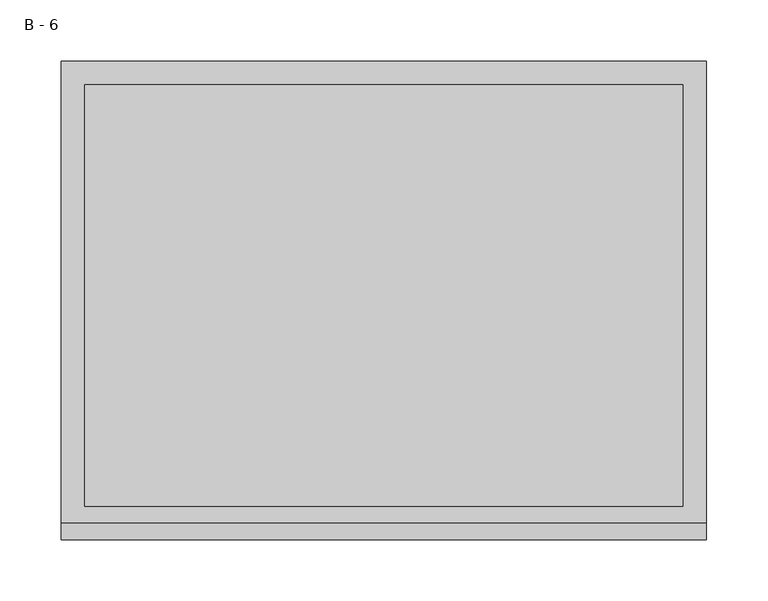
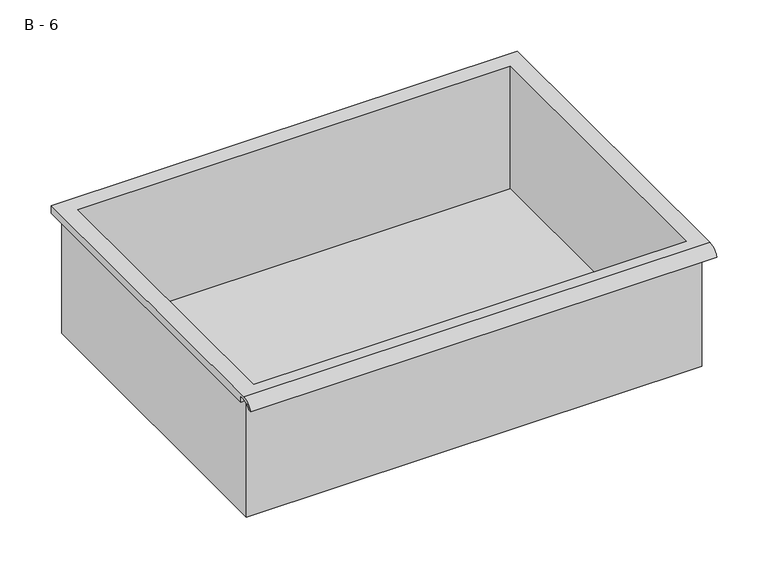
"""IFC4 building model written with IfcOpenShell, lengths in millimetres: furniture geometry, HermanMiller_CoStruc_CO207_Drawer : B - 6."""

from ifc_helpers import new_model, si_unit, frame, origin, place, context, project, spatial, polyline, circle_curve, source, transform, mapped, element, save
from ifc_brep_helpers import plane_surface, cylinder_surface, revolved_surface, advanced_brep


def b_6_0a80589c(model_context):
    return source(origin(), model_context, "Body", "AdvancedBrep", [
        advanced_brep(
        [(-257.1076517, -176.2125, 498.475), (257.2423483, -176.2125, 498.475), (257.2423483, -176.2125, 638.175), (263.5923483, -176.2125, 638.175), (263.5923483, -176.2125, 644.4821341), (-263.4576517, -176.2125, 644.4821341), (-263.4576517, -176.2125, 638.175), (-257.1076517, -176.2125, 638.175), (257.2423483, 185.7375, 498.475), (-257.1076517, 185.7375, 498.475), (-257.1076517, 185.7375, 638.175), (257.2423483, 185.7375, 638.175), (263.5923483, -181.6070544, 647.7), (263.5923483, 195.2625, 647.7), (-263.4576517, 195.2625, 647.7), (-263.4576517, -181.6070544, 647.7), (244.5423483, -168.275, 647.7), (-244.4076517, -168.275, 647.7), (-244.4076517, 176.2125, 647.7), (244.5423483, 176.2125, 647.7), (263.5923483, -195.2625, 638.175), (263.5923483, -191.8280601, 638.175), (263.5923483, -180.4714815, 644.4821341), (263.5923483, 195.2625, 638.175), (-263.4576517, 195.2625, 638.175), (-263.4576517, -180.4714815, 644.4821341), (-263.4576517, -191.8280601, 638.175), (-263.4576517, -195.2625, 638.175), (-244.4076517, -168.275, 501.5011719), (244.5423483, -168.275, 501.5011719), (244.5423483, 176.2125, 501.5011719), (-244.4076517, 176.2125, 501.5011719)],
        [
            (0, 1),
            (1, 2),
            (2, 3),
            (3, 4),
            (4, 5),
            (5, 6),
            (6, 7),
            (7, 0),
            (8, 9),
            (9, 10),
            (10, 11),
            (11, 8),
            (0, 9),
            (8, 1),
            (11, 2),
            (12, 13),
            (13, 14),
            (14, 15),
            (15, 12),
            (16, 17),
            (17, 18),
            (18, 19),
            (19, 16),
            (7, 10),
            (12, 20, circle_curve(frame((263.5923483, -181.6070544, 633.1489859), z_axis=(1.0, 0.0, 0.0), x_axis=(0.0, 1.0, 0.0)), 14.5510141)),
            (20, 21),
            (21, 22, circle_curve(frame((263.5923483, -181.6070544, 633.1489859), z_axis=(-1.0, 0.0, 0.0), x_axis=(0.0, 1.0, 0.0)), 11.3898979)),
            (22, 4),
            (3, 23),
            (23, 13),
            (14, 24),
            (24, 6),
            (5, 25),
            (25, 26, circle_curve(frame((-263.4576517, -181.6070544, 633.1489859), z_axis=(1.0, 0.0, 0.0), x_axis=(0.0, 1.0, 0.0)), 11.3898979)),
            (26, 27),
            (27, 15, circle_curve(frame((-263.4576517, -181.6070544, 633.1489859), z_axis=(-1.0, 0.0, 0.0), x_axis=(0.0, 1.0, 0.0)), 14.5510141)),
            (27, 20),
            (26, 21),
            (25, 22),
            (24, 23),
            (28, 29),
            (29, 30),
            (30, 31),
            (31, 28),
            (28, 17),
            (16, 29),
            (19, 30),
            (18, 31),
        ],
        [
            plane_surface(frame((257.2423483, -176.2125, 498.475), z_axis=(0.0, -1.0, 0.0), x_axis=(1.0, 0.0, 0.0))),
            plane_surface(frame((257.2423483, 185.7375, 498.475), z_axis=(0.0, 1.0, 0.0), x_axis=(-1.0, 0.0, 0.0))),
            plane_surface(frame((-257.1076517, -176.2125, 498.475), z_axis=(0.0, 0.0, -1.0), x_axis=(0.0, 1.0, 0.0))),
            plane_surface(frame((257.2423483, -176.2125, 498.475), z_axis=(1.0, 0.0, 0.0), x_axis=(0.0, 1.0, 0.0))),
            plane_surface(frame((257.2423483, -176.2125, 647.7), z_axis=(0.0, 0.0, 1.0), x_axis=(0.0, 1.0, 0.0))),
            plane_surface(frame((-257.1076517, -176.2125, 647.7), z_axis=(-1.0, 0.0, 0.0), x_axis=(0.0, 1.0, 0.0))),
            plane_surface(frame((263.5923483, 195.2625, 647.7), z_axis=(1.0, 0.0, 0.0), x_axis=(0.0, -1.0, 0.0))),
            plane_surface(frame((-263.4576517, 195.2625, 647.7), z_axis=(-1.0, 0.0, 0.0), x_axis=(0.0, 1.0, 0.0))),
            cylinder_surface(frame((-263.4576517, -181.6070544, 633.1489859), z_axis=(1.0, 0.0, 0.0), x_axis=(0.0, 1.0, 0.0)), 14.5510141),
            plane_surface(frame((263.5923483, -195.2625, 638.175), z_axis=(0.0, -7.2124091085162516e-12, -1.0), x_axis=(-1.0, 0.0, 0.0))),
            revolved_surface(polyline([(-263.4576517, -170.21715650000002, 633.1489859), (263.59234829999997, -170.21715650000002, 633.1489859)]), (-263.4576517, -181.6070544, 633.1489859), (-1.0, 0.0, 0.0)),
            plane_surface(frame((263.5923483, -180.4714815, 644.4821341), z_axis=(0.0, -1.782962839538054e-11, -1.0), x_axis=(-1.0, 0.0, 0.0))),
            plane_surface(frame((263.5923483, -176.2125, 638.175), z_axis=(0.0, 0.0, -1.0), x_axis=(-1.0, 0.0, 0.0))),
            plane_surface(frame((263.5923483, 195.2625, 638.175), z_axis=(0.0, 1.0, 0.0), x_axis=(-1.0, 0.0, 0.0))),
            plane_surface(frame((244.5423483, -168.275, 501.5011719), z_axis=(0.0, 0.0, 1.0), x_axis=(-1.0, 0.0, 0.0))),
            plane_surface(frame((-244.4076517, -168.275, 647.7), z_axis=(0.0, 1.0, 0.0), x_axis=(0.0, 0.0, -1.0))),
            plane_surface(frame((244.5423483, -168.275, 647.7), z_axis=(-1.0, 0.0, 0.0), x_axis=(0.0, 0.0, -1.0))),
            plane_surface(frame((244.5423483, 176.2125, 647.7), z_axis=(0.0, -1.0, 0.0), x_axis=(0.0, 0.0, -1.0))),
            plane_surface(frame((-244.4076517, 176.2125, 647.7), z_axis=(1.0, 0.0, 0.0), x_axis=(0.0, 0.0, -1.0))),
        ],
        [
            (0, [[1, 2, 3, 4, 5, 6, 7, 8]]),
            (1, [[9, 10, 11, 12]]),
            (2, [[-1, 13, -9, 14]]),
            (3, [[-14, -12, 15, -2]]),
            (4, [[16, 17, 18, 19], [20, 21, 22, 23]]),
            (5, [[-13, -8, 24, -10]]),
            (6, [[-16, 25, 26, 27, 28, -4, 29, 30]]),
            (7, [[31, 32, -6, 33, 34, 35, 36, -18]]),
            (8, [[-25, -19, -36, 37]]),
            (9, [[-26, -37, -35, 38]]),
            (10, [[-27, -38, -34, 39]]),
            (11, [[-28, -39, -33, -5]]),
            (12, [[-29, -3, -15, -11, -24, -7, -32, 40]]),
            (13, [[-30, -40, -31, -17]]),
            (14, [[41, 42, 43, 44]]),
            (15, [[-41, 45, -20, 46]]),
            (16, [[-42, -46, -23, 47]]),
            (17, [[-43, -47, -22, 48]]),
            (18, [[-44, -48, -21, -45]]),
        ],
    ),
    ])


if __name__ == "__main__":
    model = new_model("IFC4")
    model_context = context("Model", 3, world=origin())
    ifc_project = project(units=[si_unit("LENGTHUNIT", "METRE", prefix="MILLI")], contexts=[model_context])
    site = spatial("IfcSite", under=ifc_project)
    building = spatial("IfcBuilding", under=site)
    placement = place(None, origin())
    b_6_shape = b_6_0a80589c(model_context)
    element("IfcFurniture", 1, ObjectType="HermanMiller_CoStruc_CO207_Drawer : B - 6", at=placement, inside=building, context=model_context, shape_type="MappedRepresentation", body=[
        mapped(b_6_shape, transform((0.0, 0.0, 0.0), x_axis=(1.0, 0.0, 0.0), y_axis=(0.0, 1.0, 0.0), z_axis=(0.0, 0.0, 1.0))),
    ])
    save(model, "model.ifc")
